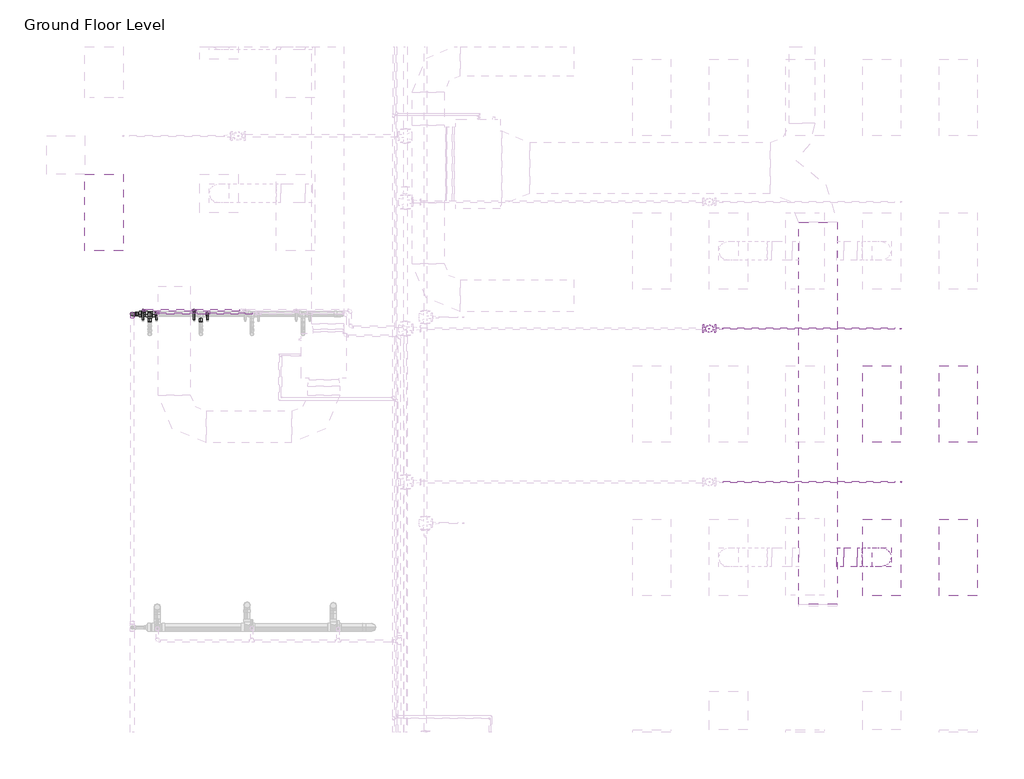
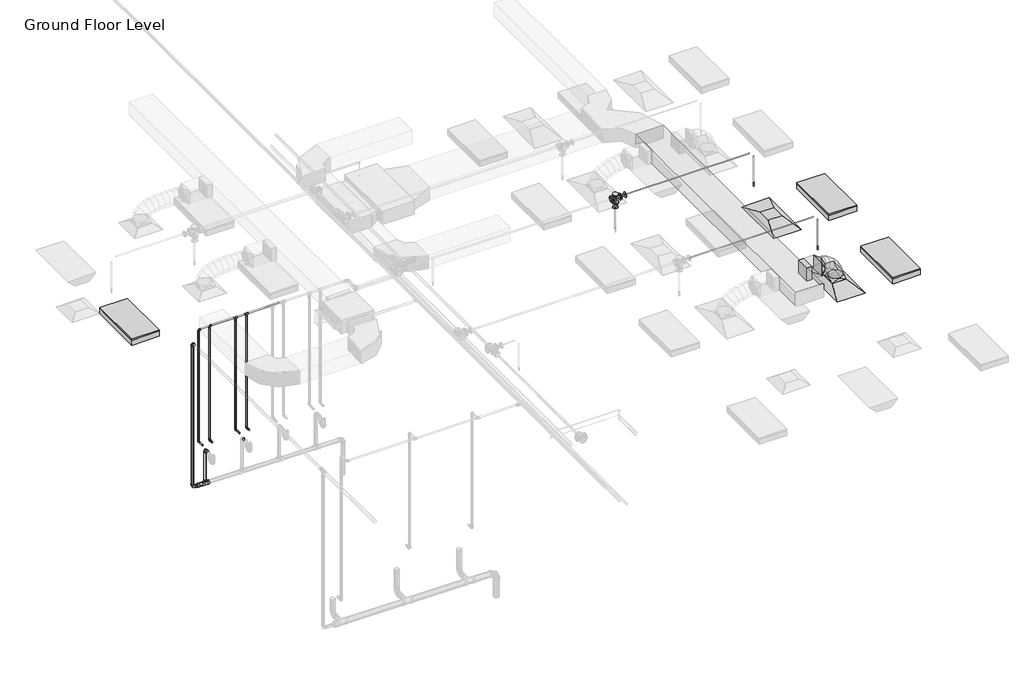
# One storey, part 23 of 74: 23 pipe segments, 16 pipe fittings, 3 duct fittings, 3 duct segments, 3 light fixtures, 2 air terminals, 2 fire suppression terminals.
"""IFC4 building model written with IfcOpenShell, lengths in millimetres."""

from ifc_helpers import new_model, si_unit, point, frame, frame_2d, origin, place, context, project, spatial, polyline, circle_curve, ellipse_curve, trimmed, segment, composite_curve, outline, extrude, transform, mapped, element, save
from ifc_brep_helpers import plane_surface, cylinder_surface, advanced_brep
from components import m_return_diffuser_1200x600_1200_x_600_face_300_x_300_d1983ef6, m_rectangular_takeoff_standard_cb0ccb98, m_rectangular_to_round_transition_angle_45_degree_641efff0, m_sprinkler_dry_pendent_hosted_15_mm_dry_pendent_9bda8e11, m_troffer_light_parabolic_rectangular1_0600x1200mm_4_lamp_86473d4a, m_bend_pvc_sch_40_dwv_standard_1e7bdcc1, m_bend_pvc_sch_40_dwv_standard_b3f66ba9, m_bend_pvc_sch_40_dwv_standard_8255d195, m_reducer_flanged_cs_class_150_standard_ccf252ad, m_reducer_pvc_sch_40_dwv_standard_391ccf0e, m_tee_reducing_sanitary_pvc_sch_40_dwv_standard_21d2848c, m_tee_round_base_flanged_cs_class_150_standard_7e5987a1, standard_b266ab3f, standard_636910a4

model = new_model("IFC4")

# Units and contexts
model_context = context("Model", 3, world=origin())
ifc_project = project(units=[si_unit("LENGTHUNIT", "METRE", prefix="MILLI")], contexts=[model_context])

# Site, building, storey
site = spatial("IfcSite", under=ifc_project)
building = spatial("IfcBuilding", under=site)
storey = spatial("IfcBuildingStorey", under=building, Name="Ground Floor Level", Elevation=900.0)

# Air terminals
placement = place(None, origin())
m_return_diffuser_1200x600_1200_x_600_face_300_x_300_shape = m_return_diffuser_1200x600_1200_x_600_face_300_x_300_d1983ef6(model_context)
element("IfcAirTerminal", 1, ObjectType="M_Return Diffuser 1200x600 : 1200 x 600 Face 300 x 300 Connection", at=placement, inside=storey, context=model_context, shape_type="MappedRepresentation", body=[
    mapped(m_return_diffuser_1200x600_1200_x_600_face_300_x_300_shape, transform((13143.0482736, -25264.7846466, 3650.0), x_axis=(0.0, 1.0, 0.0), y_axis=(-1.0, 0.0, 0.0), z_axis=(0.0, 0.0, 1.0))),
])
element("IfcAirTerminal", 2, ObjectType="M_Supply Diffuser 1200x600 : 1200 x 600 Face 300 x 300 Connection", at=placement, inside=storey, context=model_context, shape_type="MappedRepresentation", body=[
    mapped(m_return_diffuser_1200x600_1200_x_600_face_300_x_300_shape, transform((13143.0482736, -27664.7846466, 3650.0), x_axis=(0.0, 1.0, 0.0), y_axis=(-1.0, 0.0, 0.0), z_axis=(0.0, 0.0, 1.0))),
])

# Duct fittings
m_rectangular_takeoff_standard_shape = m_rectangular_takeoff_standard_cb0ccb98(model_context)
element("IfcDuctFitting", 3, ObjectType="M_Rectangular Takeoff : Standard", at=placement, inside=storey, context=model_context, shape_type="MappedRepresentation", body=[
    mapped(m_rectangular_takeoff_standard_shape, transform((12447.7826463, -27664.7846466, 4150.0), x_axis=(1.0, 0.0, 0.0), y_axis=(0.0, -1.0, 0.0), z_axis=(0.0, 0.0, -1.0))),
])
m_rectangular_to_round_transition_angle_45_degree_shape = m_rectangular_to_round_transition_angle_45_degree_641efff0(model_context)
element("IfcDuctFitting", 4, ObjectType="M_Rectangular to Round Transition - Angle : 45 Degree", at=placement, inside=storey, context=model_context, shape_type="MappedRepresentation", body=[
    mapped(m_rectangular_to_round_transition_angle_45_degree_shape, transform((13143.0482736, -27664.7846466, 3751.6), x_axis=(0.0, 0.0, 1.0), y_axis=(-1.0, 0.0, 0.0), z_axis=(0.0, -1.0, 0.0))),
])
element("IfcDuctFitting", 5, ObjectType="M_Rectangular to Round Transition - Angle : 45 Degree", at=placement, inside=storey, context=model_context, shape_type="MappedRepresentation", body=[
    mapped(m_rectangular_to_round_transition_angle_45_degree_shape, transform((12761.6123697, -27664.7846466, 4150.0), x_axis=(1.0, 0.0, 0.0), y_axis=(0.0, 1.0, 0.0), z_axis=(0.0, 0.0, 1.0))),
])

# Duct segments
element("IfcDuctSegment", 6, ObjectType="Flex - Round", at=placement, inside=storey, context=model_context, shape_type="AdvancedBrep", body=[
    advanced_brep(
    [(13293.0482736, -27664.7846466, 3826.6), (13143.0482736, -27814.7846466, 3826.6), (12993.0482736, -27664.7846466, 3826.6), (13143.0482736, -27514.7846466, 3826.6), (13293.0482736, -27664.7846466, 3876.0801767), (13143.0482736, -27814.7846466, 3855.2056793), (12993.0482736, -27664.7846466, 3834.331182), (13143.0482736, -27514.7846466, 3855.2056793), (13265.1827192, -27664.7846466, 3974.2594203), (13125.4356677, -27814.7846466, 3917.2605124), (12985.6886162, -27664.7846466, 3860.2616044), (13125.4356677, -27514.7846466, 3917.2605124), (13200.6413272, -27664.7846466, 4092.9659573), (13077.9530197, -27814.7846466, 4004.5920764), (12955.2647122, -27664.7846466, 3916.2181955), (13077.9530197, -27514.7846466, 4004.5920764), (13104.756489, -27664.7846466, 4195.7964668), (13008.6330843, -27814.7846466, 4078.9333843), (12912.5096796, -27664.7846466, 3962.0703018), (13008.6330843, -27514.7846466, 4078.9333843), (12990.1100986, -27664.7846466, 4267.0876603), (12925.5086161, -27814.7846466, 4130.6231281), (12860.9071335, -27664.7846466, 3994.1585959), (12925.5086161, -27514.7846466, 4130.6231281), (12893.3774283, -27664.7846466, 4300.0), (12868.5580444, -27814.7846466, 4150.0), (12843.7386605, -27664.7846466, 4000.0), (12868.5580444, -27514.7846466, 4150.0), (12836.6123697, -27664.7846466, 4300.0), (12836.6123697, -27814.7846466, 4150.0), (12836.6123697, -27664.7846466, 4000.0), (12836.6123697, -27514.7846466, 4150.0)],
    [
        (0, 1, circle_curve(frame((13143.0482736, -27664.7846466, 3826.6), z_axis=(0.0, 0.0, -1.0), x_axis=(1.0, 0.0, 0.0)), 150.0)),
        (1, 2, circle_curve(frame((13143.0482736, -27664.7846466, 3826.6), z_axis=(0.0, 0.0, -1.0), x_axis=(1.0, 0.0, 0.0)), 150.0)),
        (2, 3, circle_curve(frame((13143.0482736, -27664.7846466, 3826.6), z_axis=(0.0, 0.0, -1.0), x_axis=(1.0, 0.0, 0.0)), 150.0)),
        (3, 0, circle_curve(frame((13143.0482736, -27664.7846466, 3826.6), z_axis=(0.0, 0.0, -1.0), x_axis=(1.0, 0.0, 0.0)), 150.0)),
        (0, 4),
        (4, 5, ellipse_curve(frame((13143.0482736, -27664.7846466, 3855.2056793), z_axis=(0.13783502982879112, 0.0, -0.990455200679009), x_axis=(-0.990455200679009, 0.0, -0.1378350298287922)), 151.4455171, 150.0)),
        (5, 1),
        (5, 6, ellipse_curve(frame((13143.0482736, -27664.7846466, 3855.2056793), z_axis=(0.13783502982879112, 0.0, -0.990455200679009), x_axis=(-0.990455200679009, 0.0, -0.1378350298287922)), 151.4455171, 150.0)),
        (6, 2),
        (6, 7, ellipse_curve(frame((13143.0482736, -27664.7846466, 3855.2056793), z_axis=(0.13783502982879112, 0.0, -0.990455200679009), x_axis=(-0.990455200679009, 0.0, -0.1378350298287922)), 151.4455171, 150.0)),
        (7, 3),
        (7, 4, ellipse_curve(frame((13143.0482736, -27664.7846466, 3855.2056793), z_axis=(0.13783502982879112, 0.0, -0.990455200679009), x_axis=(-0.990455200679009, 0.0, -0.1378350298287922)), 151.4455171, 150.0)),
        (4, 8),
        (8, 9, ellipse_curve(frame((13125.4356677, -27664.7846466, 3917.2605124), z_axis=(0.37766579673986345, 0.0, -0.9259419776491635), x_axis=(-0.9259419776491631, 0.0, -0.3776657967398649)), 150.9241992, 150.0)),
        (9, 5),
        (9, 10, ellipse_curve(frame((13125.4356677, -27664.7846466, 3917.2605124), z_axis=(0.37766579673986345, 0.0, -0.9259419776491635), x_axis=(-0.9259419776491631, 0.0, -0.3776657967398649)), 150.9241992, 150.0)),
        (10, 6),
        (10, 11, ellipse_curve(frame((13125.4356677, -27664.7846466, 3917.2605124), z_axis=(0.37766579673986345, 0.0, -0.9259419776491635), x_axis=(-0.9259419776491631, 0.0, -0.3776657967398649)), 150.9241992, 150.0)),
        (11, 7),
        (11, 8, ellipse_curve(frame((13125.4356677, -27664.7846466, 3917.2605124), z_axis=(0.37766579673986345, 0.0, -0.9259419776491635), x_axis=(-0.9259419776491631, 0.0, -0.3776657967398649)), 150.9241992, 150.0)),
        (8, 12),
        (12, 13, ellipse_curve(frame((13077.9530197, -27664.7846466, 4004.5920764), z_axis=(0.584471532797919, 0.0, -0.8114142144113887), x_axis=(-0.8114142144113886, 0.0, -0.5844715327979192)), 151.2030542, 150.0)),
        (13, 9),
        (13, 14, ellipse_curve(frame((13077.9530197, -27664.7846466, 4004.5920764), z_axis=(0.584471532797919, 0.0, -0.8114142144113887), x_axis=(-0.8114142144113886, 0.0, -0.5844715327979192)), 151.2030542, 150.0)),
        (14, 10),
        (14, 15, ellipse_curve(frame((13077.9530197, -27664.7846466, 4004.5920764), z_axis=(0.584471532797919, 0.0, -0.8114142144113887), x_axis=(-0.8114142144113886, 0.0, -0.5844715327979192)), 151.2030542, 150.0)),
        (15, 11),
        (15, 12, ellipse_curve(frame((13077.9530197, -27664.7846466, 4004.5920764), z_axis=(0.584471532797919, 0.0, -0.8114142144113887), x_axis=(-0.8114142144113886, 0.0, -0.5844715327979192)), 151.2030542, 150.0)),
        (12, 16),
        (16, 17, ellipse_curve(frame((13008.6330843, -27664.7846466, 4078.9333843), z_axis=(0.7723088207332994, 0.0, -0.6352472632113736), x_axis=(-0.6352472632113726, 0.0, -0.7723088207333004)), 151.3165192, 150.0)),
        (17, 13),
        (17, 18, ellipse_curve(frame((13008.6330843, -27664.7846466, 4078.9333843), z_axis=(0.7723088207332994, 0.0, -0.6352472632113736), x_axis=(-0.6352472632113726, 0.0, -0.7723088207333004)), 151.3165192, 150.0)),
        (18, 14),
        (18, 19, ellipse_curve(frame((13008.6330843, -27664.7846466, 4078.9333843), z_axis=(0.7723088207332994, 0.0, -0.6352472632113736), x_axis=(-0.6352472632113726, 0.0, -0.7723088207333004)), 151.3165192, 150.0)),
        (19, 15),
        (19, 16, ellipse_curve(frame((13008.6330843, -27664.7846466, 4078.9333843), z_axis=(0.7723088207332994, 0.0, -0.6352472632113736), x_axis=(-0.6352472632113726, 0.0, -0.7723088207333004)), 151.3165192, 150.0)),
        (16, 20),
        (20, 21, ellipse_curve(frame((12925.5086161, -27664.7846466, 4130.6231281), z_axis=(0.9038393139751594, 0.0, -0.4278720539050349), x_axis=(-0.42787205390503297, 0.0, -0.9038393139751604)), 150.9831782, 150.0)),
        (21, 17),
        (21, 22, ellipse_curve(frame((12925.5086161, -27664.7846466, 4130.6231281), z_axis=(0.9038393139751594, 0.0, -0.4278720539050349), x_axis=(-0.42787205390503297, 0.0, -0.9038393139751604)), 150.9831782, 150.0)),
        (22, 18),
        (22, 23, ellipse_curve(frame((12925.5086161, -27664.7846466, 4130.6231281), z_axis=(0.9038393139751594, 0.0, -0.4278720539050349), x_axis=(-0.42787205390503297, 0.0, -0.9038393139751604)), 150.9831782, 150.0)),
        (23, 19),
        (23, 20, ellipse_curve(frame((12925.5086161, -27664.7846466, 4130.6231281), z_axis=(0.9038393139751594, 0.0, -0.4278720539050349), x_axis=(-0.42787205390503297, 0.0, -0.9038393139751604)), 150.9831782, 150.0)),
        (20, 24),
        (24, 25, ellipse_curve(frame((12868.5580444, -27664.7846466, 4150.0), z_axis=(0.9865858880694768, 0.0, -0.1632430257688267), x_axis=(-0.16324302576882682, 0.0, -0.9865858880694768)), 152.0394745, 150.0)),
        (25, 21),
        (25, 26, ellipse_curve(frame((12868.5580444, -27664.7846466, 4150.0), z_axis=(0.9865858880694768, 0.0, -0.1632430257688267), x_axis=(-0.16324302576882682, 0.0, -0.9865858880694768)), 152.0394745, 150.0)),
        (26, 22),
        (26, 27, ellipse_curve(frame((12868.5580444, -27664.7846466, 4150.0), z_axis=(0.9865858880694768, 0.0, -0.1632430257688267), x_axis=(-0.16324302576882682, 0.0, -0.9865858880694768)), 152.0394745, 150.0)),
        (27, 23),
        (27, 24, ellipse_curve(frame((12868.5580444, -27664.7846466, 4150.0), z_axis=(0.9865858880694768, 0.0, -0.1632430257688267), x_axis=(-0.16324302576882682, 0.0, -0.9865858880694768)), 152.0394745, 150.0)),
        (24, 28),
        (28, 29, circle_curve(frame((12836.6123697, -27664.7846466, 4150.0), z_axis=(1.0, 0.0, 0.0), x_axis=(0.0, 0.0, 1.0)), 150.0)),
        (29, 25),
        (29, 30, circle_curve(frame((12836.6123697, -27664.7846466, 4150.0), z_axis=(1.0, 0.0, 0.0), x_axis=(0.0, 0.0, 1.0)), 150.0)),
        (30, 26),
        (30, 31, circle_curve(frame((12836.6123697, -27664.7846466, 4150.0), z_axis=(1.0, 0.0, 0.0), x_axis=(0.0, 0.0, 1.0)), 150.0)),
        (31, 27),
        (31, 28, circle_curve(frame((12836.6123697, -27664.7846466, 4150.0), z_axis=(1.0, 0.0, 0.0), x_axis=(0.0, 0.0, 1.0)), 150.0)),
    ],
    [
        plane_surface(frame((13143.0482736, -27814.7846466, 3826.6), z_axis=(0.0, 0.0, -1.0), x_axis=(1.0, 0.0, 0.0))),
        cylinder_surface(frame((13143.0482736, -27664.7846466, 3826.6), z_axis=(0.0, 0.0, -1.0), x_axis=(1.0, 0.0, 0.0)), 150.0),
        cylinder_surface(frame((13143.0482736, -27664.7846466, 3855.2056793), z_axis=(0.27303884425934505, 0.0, -0.9620030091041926), x_axis=(0.9620030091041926, 0.0, 0.27303884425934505)), 150.0),
        cylinder_surface(frame((13125.4356677, -27664.7846466, 3917.2605124), z_axis=(0.4776674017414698, 0.0, -0.8785407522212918), x_axis=(0.8785407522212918, 0.0, 0.4776674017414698)), 150.0),
        cylinder_surface(frame((13077.9530197, -27664.7846466, 4004.5920764), z_axis=(0.6819749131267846, 0.0, -0.7313755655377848), x_axis=(0.7313755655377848, 0.0, 0.6819749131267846)), 150.0),
        cylinder_surface(frame((13008.6330843, -27664.7846466, 4078.9333843), z_axis=(0.8492038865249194, 0.0, -0.5280651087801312), x_axis=(0.5280651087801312, 0.0, 0.8492038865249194)), 150.0),
        cylinder_surface(frame((12925.5086161, -27664.7846466, 4130.6231281), z_axis=(0.9467034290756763, 0.0, -0.32210653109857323), x_axis=(0.32210653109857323, 0.0, 0.9467034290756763)), 150.0),
        cylinder_surface(frame((12868.5580444, -27664.7846466, 4150.0), z_axis=(1.0, 0.0, 0.0), x_axis=(0.0, 0.0, 1.0)), 150.0),
        plane_surface(frame((12836.6123697, -27664.7846466, 4000.0), z_axis=(-1.0, 0.0, 0.0), x_axis=(0.0, -1.0, 0.0))),
    ],
    [
        (0, [[1, 2, 3, 4]]),
        (1, [[-1, 5, 6, 7]]),
        (1, [[-2, -7, 8, 9]]),
        (1, [[-3, -9, 10, 11]]),
        (1, [[-4, -11, 12, -5]]),
        (2, [[-6, 13, 14, 15]]),
        (2, [[-8, -15, 16, 17]]),
        (2, [[-10, -17, 18, 19]]),
        (2, [[-12, -19, 20, -13]]),
        (3, [[-14, 21, 22, 23]]),
        (3, [[-16, -23, 24, 25]]),
        (3, [[-18, -25, 26, 27]]),
        (3, [[-20, -27, 28, -21]]),
        (4, [[-22, 29, 30, 31]]),
        (4, [[-24, -31, 32, 33]]),
        (4, [[-26, -33, 34, 35]]),
        (4, [[-28, -35, 36, -29]]),
        (5, [[-30, 37, 38, 39]]),
        (5, [[-32, -39, 40, 41]]),
        (5, [[-34, -41, 42, 43]]),
        (5, [[-36, -43, 44, -37]]),
        (6, [[-38, 45, 46, 47]]),
        (6, [[-40, -47, 48, 49]]),
        (6, [[-42, -49, 50, 51]]),
        (6, [[-44, -51, 52, -45]]),
        (7, [[-46, 53, 54, 55]]),
        (7, [[-48, -55, 56, 57]]),
        (7, [[-50, -57, 58, 59]]),
        (7, [[-52, -59, 60, -53]]),
        (8, [[-60, -58, -56, -54]]),
    ],
),
])
element("IfcDuctSegment", 7, ObjectType="Radius Elbows / Taps", at=placement, inside=storey, context=model_context, shape_type="SweptSolid", body=[
    extrude(outline(polyline([(12447.7826463, -28403.2846466), (11847.7826463, -28403.2846466), (11847.7826463, -22416.5689179), (12447.7826463, -22416.5689179), (12447.7826463, -28403.2846466)])), frame((0.0, 0.0, 4000.0002153), z_axis=(0.0, 0.0, 1.0), x_axis=(1.0, 0.0, 0.0)), (0.0, 0.0, 1.0), 300.0),
])
element("IfcDuctSegment", 8, ObjectType="Radius Elbows / Taps", at=placement, inside=storey, context=model_context, shape_type="SweptSolid", body=[
    extrude(outline(polyline([(12549.3826463, -27814.7846466), (12549.3826463, -27514.7846466), (12761.6123697, -27514.7846466), (12761.6123697, -27814.7846466), (12549.3826463, -27814.7846466)])), frame((0.0, 0.0, 4000.0), z_axis=(0.0, 0.0, 1.0), x_axis=(1.0, 0.0, 0.0)), (0.0, 0.0, 1.0), 300.0),
])

# Fire suppression terminals
m_sprinkler_dry_pendent_hosted_15_mm_dry_pendent_shape = m_sprinkler_dry_pendent_hosted_15_mm_dry_pendent_9bda8e11(model_context)
element("IfcFireSuppressionTerminal", 9, ObjectType="M_Sprinkler - Dry - Pendent - Hosted : 15 mm Dry Pendent", at=placement, inside=storey, context=model_context, shape_type="MappedRepresentation", body=[
    mapped(m_sprinkler_dry_pendent_hosted_15_mm_dry_pendent_shape, transform((13443.0482736, -24083.6779349, 3650.0), x_axis=(1.0, 0.0, 0.0), y_axis=(0.0, -1.0, 0.0), z_axis=(0.0, 0.0, -1.0))),
])
element("IfcFireSuppressionTerminal", 10, ObjectType="M_Sprinkler - Dry - Pendent - Hosted : 15 mm Dry Pendent", at=placement, inside=storey, context=model_context, shape_type="MappedRepresentation", body=[
    mapped(m_sprinkler_dry_pendent_hosted_15_mm_dry_pendent_shape, transform((13443.0482736, -26484.6295433, 3650.0), x_axis=(1.0, 0.0, 0.0), y_axis=(0.0, -1.0, 0.0), z_axis=(0.0, 0.0, -1.0))),
])

# Light fixtures
m_troffer_light_parabolic_rectangular1_0600x1200mm_4_lamp_shape = m_troffer_light_parabolic_rectangular1_0600x1200mm_4_lamp_86473d4a(model_context)
element("IfcLightFixture", 11, ObjectType="M_Troffer Light - Parabolic Rectangular1 : 0600x1200mm(4 Lamp) - 277V 2", at=placement, inside=storey, context=model_context, shape_type="MappedRepresentation", body=[
    mapped(m_troffer_light_parabolic_rectangular1_0600x1200mm_4_lamp_shape, transform((903.3013074, -22246.081145, 3650.0), x_axis=(0.0, 1.0, 0.0), y_axis=(-1.0, 0.0, 0.0), z_axis=(0.0, 0.0, 1.0))),
])
element("IfcLightFixture", 12, ObjectType="M_Troffer Light - Parabolic Rectangular1 : 0600x1200mm(4 Lamp) - 277V 2", at=placement, inside=storey, context=model_context, shape_type="MappedRepresentation", body=[
    mapped(m_troffer_light_parabolic_rectangular1_0600x1200mm_4_lamp_shape, transform((14283.5823415, -25246.081145, 3650.0), x_axis=(0.0, 1.0, 0.0), y_axis=(-1.0, 0.0, 0.0), z_axis=(0.0, 0.0, 1.0))),
])
element("IfcLightFixture", 13, ObjectType="M_Troffer Light - Parabolic Rectangular1 : 0600x1200mm(4 Lamp) - 277V 2", at=placement, inside=storey, context=model_context, shape_type="MappedRepresentation", body=[
    mapped(m_troffer_light_parabolic_rectangular1_0600x1200mm_4_lamp_shape, transform((14283.5823415, -27646.081145, 3650.0), x_axis=(0.0, 1.0, 0.0), y_axis=(-1.0, 0.0, 0.0), z_axis=(0.0, 0.0, 1.0))),
])

# Pipe fittings
m_bend_pvc_sch_40_dwv_standard_shape = m_bend_pvc_sch_40_dwv_standard_1e7bdcc1(model_context)
element("IfcPipeFitting", 14, ObjectType="M_Bend - PVC - Sch 40 - DWV : Standard", at=placement, inside=storey, context=model_context, shape_type="MappedRepresentation", body=[
    mapped(m_bend_pvc_sch_40_dwv_standard_shape, transform((1404.8669708, -23854.2948449, 739.8083289), x_axis=(-0.9999500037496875, 0.0, 0.009999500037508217), y_axis=(0.009999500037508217, 0.0, 0.9999500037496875), z_axis=(0.0, 1.0, 0.0))),
])
m_bend_pvc_sch_40_dwv_standard_2_shape = m_bend_pvc_sch_40_dwv_standard_b3f66ba9(model_context)
element("IfcPipeFitting", 15, ObjectType="M_Bend - PVC - Sch 40 - DWV : Standard", at=placement, inside=storey, context=model_context, shape_type="MappedRepresentation", body=[
    mapped(m_bend_pvc_sch_40_dwv_standard_2_shape, transform((1679.14976, -23854.2948449, 1508.2594199), x_axis=(0.0, 0.9999578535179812, -0.009181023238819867), y_axis=(0.0, -0.009181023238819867, -0.9999578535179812), z_axis=(-1.0, 0.0, 0.0))),
])
m_bend_pvc_sch_40_dwv_standard_3_shape = m_bend_pvc_sch_40_dwv_standard_8255d195(model_context)
element("IfcPipeFitting", 16, ObjectType="M_Bend - PVC - Sch 40 - DWV : Standard", at=placement, inside=storey, context=model_context, shape_type="MappedRepresentation", body=[
    mapped(m_bend_pvc_sch_40_dwv_standard_3_shape, transform((1404.8829692, -23854.3136394, 4037.9287036), x_axis=(0.0, 0.0, 1.0), y_axis=(0.0, -1.0, 0.0), z_axis=(1.0, 0.0, 0.0))),
])
m_reducer_flanged_cs_class_150_standard_shape = m_reducer_flanged_cs_class_150_standard_ccf252ad(model_context)
element("IfcPipeFitting", 17, ObjectType="M_Reducer - Flanged - CS - Class 150 : Standard", at=placement, inside=storey, context=model_context, shape_type="MappedRepresentation", body=[
    mapped(m_reducer_flanged_cs_class_150_standard_shape, transform((10543.7568674, -24083.6779349, 4347.5), x_axis=(1.0, 0.0, 0.0), y_axis=(0.0, 0.0, 1.0), z_axis=(0.0, -1.0, 0.0))),
])
element("IfcPipeFitting", 18, ObjectType="M_Reducer - Flanged - CS - Class 150 : Standard", at=placement, inside=storey, context=model_context, shape_type="MappedRepresentation", body=[
    mapped(m_reducer_flanged_cs_class_150_standard_shape, transform((10443.0482736, -24083.6779349, 4246.7914063), x_axis=(0.0, 0.0, -1.0), y_axis=(-1.0, 0.0, 0.0), z_axis=(0.0, 1.0, 0.0))),
])
m_reducer_pvc_sch_40_dwv_standard_shape = m_reducer_pvc_sch_40_dwv_standard_391ccf0e(model_context)
element("IfcPipeFitting", 19, ObjectType="M_Reducer - PVC - Sch 40 - DWV : Standard", at=placement, inside=storey, context=model_context, shape_type="MappedRepresentation", body=[
    mapped(m_reducer_pvc_sch_40_dwv_standard_shape, transform((1477.4242491, -23854.2948449, 739.0827561), x_axis=(0.9999500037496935, 0.0, -0.00999950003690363), y_axis=(0.0, 1.0, 0.0), z_axis=(0.00999950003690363, 0.0, 0.9999500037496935))),
])
m_tee_reducing_sanitary_pvc_sch_40_dwv_standard_shape = m_tee_reducing_sanitary_pvc_sch_40_dwv_standard_21d2848c(model_context)
element("IfcPipeFitting", 20, ObjectType="M_Tee Reducing Sanitary - PVC - Sch 40 - DWV : Standard", at=placement, inside=storey, context=model_context, shape_type="MappedRepresentation", body=[
    mapped(m_tee_reducing_sanitary_pvc_sch_40_dwv_standard_shape, transform((1679.3782372, -23854.2948449, 737.0632162), x_axis=(-0.9999500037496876, 0.0, 0.009999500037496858), y_axis=(-0.009999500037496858, 0.0, -0.9999500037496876), z_axis=(0.0, -1.0, 0.0))),
])
m_tee_round_base_flanged_cs_class_150_standard_shape = m_tee_round_base_flanged_cs_class_150_standard_7e5987a1(model_context)
element("IfcPipeFitting", 21, ObjectType="M_Tee Round Base - Flanged - CS - Class 150 : Standard", at=placement, inside=storey, context=model_context, shape_type="MappedRepresentation", body=[
    mapped(m_tee_round_base_flanged_cs_class_150_standard_shape, transform((10443.0482736, -24083.6779349, 4347.5), x_axis=(1.0, 0.0, 0.0), y_axis=(0.0, 0.0, 1.0), z_axis=(0.0, -1.0, 0.0))),
])
standard_shape = standard_b266ab3f(model_context)
element("IfcPipeFitting", 22, ObjectType="M_Elbow - CPVC - Sch 40 : Standard", at=placement, inside=storey, context=model_context, shape_type="MappedRepresentation", body=[
    mapped(standard_shape, transform((1783.0647206, -23844.7846466, 1690.0), x_axis=(0.0, 0.0, -1.0), y_axis=(0.0, -1.0, 0.0), z_axis=(-1.0, 0.0, 0.0))),
])
element("IfcPipeFitting", 23, ObjectType="M_Elbow - CPVC - Sch 40 : Standard", at=placement, inside=storey, context=model_context, shape_type="MappedRepresentation", body=[
    mapped(standard_shape, transform((2583.0647206, -23844.7846466, 1690.0), x_axis=(0.0, 0.0, -1.0), y_axis=(0.0, -1.0, 0.0), z_axis=(-1.0, 0.0, 0.0))),
])
element("IfcPipeFitting", 24, ObjectType="M_Elbow - CPVC - Sch 40 : Standard", at=placement, inside=storey, context=model_context, shape_type="MappedRepresentation", body=[
    mapped(standard_shape, transform((1783.0647206, -23844.7846466, 4300.0), x_axis=(-1.0, 0.0, 0.0), y_axis=(0.0, 0.0, -1.0), z_axis=(0.0, -1.0, 0.0))),
])
element("IfcPipeFitting", 25, ObjectType="M_Elbow - CPVC - Sch 40 : Standard", at=placement, inside=storey, context=model_context, shape_type="MappedRepresentation", body=[
    mapped(standard_shape, transform((1574.4348794, -23794.921633, 1690.0), x_axis=(0.0, 1.0, 0.0), y_axis=(0.0, 0.0, 1.0), z_axis=(1.0, 0.0, 0.0))),
])
element("IfcPipeFitting", 26, ObjectType="M_Elbow - CPVC - Sch 40 : Standard", at=placement, inside=storey, context=model_context, shape_type="MappedRepresentation", body=[
    mapped(standard_shape, transform((1574.4348794, -23794.921633, 4250.0), x_axis=(0.0, 0.0, 1.0), y_axis=(1.0, 0.0, 0.0), z_axis=(0.0, 1.0, 0.0))),
])
element("IfcPipeFitting", 27, ObjectType="M_Elbow - CPVC - Sch 40 : Standard", at=placement, inside=storey, context=model_context, shape_type="MappedRepresentation", body=[
    mapped(standard_shape, transform((2374.4348794, -23794.921633, 1690.0), x_axis=(0.0, 1.0, 0.0), y_axis=(0.0, 0.0, 1.0), z_axis=(1.0, 0.0, 0.0))),
])
standard_2_shape = standard_636910a4(model_context)
element("IfcPipeFitting", 28, ObjectType="M_Tee - CPVC - Sch 40 : Standard", at=placement, inside=storey, context=model_context, shape_type="MappedRepresentation", body=[
    mapped(standard_2_shape, transform((2583.0647206, -23844.7846466, 4300.0), x_axis=(1.0, 0.0, 0.0), y_axis=(0.0, 0.0, 1.0), z_axis=(0.0, -1.0, 0.0))),
])
element("IfcPipeFitting", 29, ObjectType="M_Tee - CPVC - Sch 40 : Standard", at=placement, inside=storey, context=model_context, shape_type="MappedRepresentation", body=[
    mapped(standard_2_shape, transform((2374.4348794, -23794.921633, 4250.0), x_axis=(-1.0, 0.0, 0.0), y_axis=(0.0, 0.0, 1.0), z_axis=(0.0, 1.0, 0.0))),
])

# Pipe segments
element("IfcPipeSegment", 30, ObjectType="CPVC", at=placement, inside=storey, context=model_context, shape_type="SweptSolid", body=[
    extrude(outline(composite_curve([segment(trimmed(circle_curve(frame_2d((1690.0, 2583.0647206)), 13.335), [point((1690.0, 2596.3997206))], [point((1703.335, 2583.0647206))], False, "CARTESIAN"), True, "CONTINUOUS"), segment(trimmed(circle_curve(frame_2d((1690.0, 2583.0647206)), 13.335), [point((1703.335, 2583.0647206))], [point((1690.0, 2569.7297206))], False, "CARTESIAN"), True, "CONTINUOUS"), segment(trimmed(circle_curve(frame_2d((1690.0, 2583.0647206)), 13.335), [point((1690.0, 2569.7297206))], [point((1676.665, 2583.0647206))], False, "CARTESIAN"), True, "CONTINUOUS"), segment(trimmed(circle_curve(frame_2d((1690.0, 2583.0647206)), 13.335), [point((1676.665, 2583.0647206))], [point((1690.0, 2596.3997206))], False, "CARTESIAN"), True, "CONTINUOUS")], self_intersect=False)), frame((0.0, -23944.7846466, 0.0), z_axis=(0.0, 1.0, 0.0), x_axis=(0.0, 0.0, 1.0)), (0.0, 0.0, 1.0), 64.67495),
])
element("IfcPipeSegment", 31, ObjectType="CPVC", at=placement, inside=storey, context=model_context, shape_type="SweptSolid", body=[
    extrude(outline(composite_curve([segment(trimmed(circle_curve(frame_2d((1690.0, 1783.0647206)), 13.335), [point((1690.0, 1796.3997206))], [point((1703.335, 1783.0647206))], False, "CARTESIAN"), True, "CONTINUOUS"), segment(trimmed(circle_curve(frame_2d((1690.0, 1783.0647206)), 13.335), [point((1703.335, 1783.0647206))], [point((1690.0, 1769.7297206))], False, "CARTESIAN"), True, "CONTINUOUS"), segment(trimmed(circle_curve(frame_2d((1690.0, 1783.0647206)), 13.335), [point((1690.0, 1769.7297206))], [point((1676.665, 1783.0647206))], False, "CARTESIAN"), True, "CONTINUOUS"), segment(trimmed(circle_curve(frame_2d((1690.0, 1783.0647206)), 13.335), [point((1676.665, 1783.0647206))], [point((1690.0, 1796.3997206))], False, "CARTESIAN"), True, "CONTINUOUS")], self_intersect=False)), frame((0.0, -23944.7846466, 0.0), z_axis=(0.0, 1.0, 0.0), x_axis=(0.0, 0.0, 1.0)), (0.0, 0.0, 1.0), 64.67495),
])
element("IfcPipeSegment", 32, ObjectType="CPVC", at=placement, inside=storey, context=model_context, shape_type="SweptSolid", body=[
    extrude(outline(composite_curve([segment(trimmed(circle_curve(frame_2d((1783.0647206, -23844.7846466)), 13.335), [point((1796.3997206, -23844.7846466))], [point((1783.0647206, -23858.1196466))], False, "CARTESIAN"), True, "CONTINUOUS"), segment(trimmed(circle_curve(frame_2d((1783.0647206, -23844.7846466)), 13.335), [point((1783.0647206, -23858.1196466))], [point((1769.7297206, -23844.7846466))], False, "CARTESIAN"), True, "CONTINUOUS"), segment(trimmed(circle_curve(frame_2d((1783.0647206, -23844.7846466)), 13.335), [point((1769.7297206, -23844.7846466))], [point((1783.0647206, -23831.4496466))], False, "CARTESIAN"), True, "CONTINUOUS"), segment(trimmed(circle_curve(frame_2d((1783.0647206, -23844.7846466)), 13.335), [point((1783.0647206, -23831.4496466))], [point((1796.3997206, -23844.7846466))], False, "CARTESIAN"), True, "CONTINUOUS")], self_intersect=False)), frame((0.0, 0.0, 1725.32505), z_axis=(0.0, 0.0, 1.0), x_axis=(1.0, 0.0, 0.0)), (0.0, 0.0, 1.0), 2539.3499),
])
element("IfcPipeSegment", 33, ObjectType="CPVC", at=placement, inside=storey, context=model_context, shape_type="SweptSolid", body=[
    extrude(outline(composite_curve([segment(trimmed(circle_curve(frame_2d((-23844.7846466, 4300.0)), 13.335), [point((-23831.4496466, 4300.0))], [point((-23844.7846466, 4286.665))], False, "CARTESIAN"), True, "CONTINUOUS"), segment(trimmed(circle_curve(frame_2d((-23844.7846466, 4300.0)), 13.335), [point((-23844.7846466, 4286.665))], [point((-23858.1196466, 4300.0))], False, "CARTESIAN"), True, "CONTINUOUS"), segment(trimmed(circle_curve(frame_2d((-23844.7846466, 4300.0)), 13.335), [point((-23858.1196466, 4300.0))], [point((-23844.7846466, 4313.335))], False, "CARTESIAN"), True, "CONTINUOUS"), segment(trimmed(circle_curve(frame_2d((-23844.7846466, 4300.0)), 13.335), [point((-23844.7846466, 4313.335))], [point((-23831.4496466, 4300.0))], False, "CARTESIAN"), True, "CONTINUOUS")], self_intersect=False)), frame((1818.3897706, 0.0, 0.0), z_axis=(1.0, 0.0, 0.0), x_axis=(0.0, 1.0, 0.0)), (0.0, 0.0, 1.0), 732.13755),
])
element("IfcPipeSegment", 34, ObjectType="CPVC", at=placement, inside=storey, context=model_context, shape_type="SweptSolid", body=[
    extrude(outline(composite_curve([segment(trimmed(circle_curve(frame_2d((2583.0647206, -23844.7846466)), 13.335), [point((2596.3997206, -23844.7846466))], [point((2583.0647206, -23858.1196466))], False, "CARTESIAN"), True, "CONTINUOUS"), segment(trimmed(circle_curve(frame_2d((2583.0647206, -23844.7846466)), 13.335), [point((2583.0647206, -23858.1196466))], [point((2569.7297206, -23844.7846466))], False, "CARTESIAN"), True, "CONTINUOUS"), segment(trimmed(circle_curve(frame_2d((2583.0647206, -23844.7846466)), 13.335), [point((2569.7297206, -23844.7846466))], [point((2583.0647206, -23831.4496466))], False, "CARTESIAN"), True, "CONTINUOUS"), segment(trimmed(circle_curve(frame_2d((2583.0647206, -23844.7846466)), 13.335), [point((2583.0647206, -23831.4496466))], [point((2596.3997206, -23844.7846466))], False, "CARTESIAN"), True, "CONTINUOUS")], self_intersect=False)), frame((0.0, 0.0, 1725.32505), z_axis=(0.0, 0.0, 1.0), x_axis=(1.0, 0.0, 0.0)), (0.0, 0.0, 1.0), 2542.13755),
])
element("IfcPipeSegment", 35, ObjectType="CPVC", at=placement, inside=storey, context=model_context, shape_type="SweptSolid", body=[
    extrude(outline(composite_curve([segment(trimmed(circle_curve(frame_2d((-23844.7846466, 4300.0)), 13.335), [point((-23831.4496466, 4300.0))], [point((-23844.7846466, 4286.665))], False, "CARTESIAN"), True, "CONTINUOUS"), segment(trimmed(circle_curve(frame_2d((-23844.7846466, 4300.0)), 13.335), [point((-23844.7846466, 4286.665))], [point((-23858.1196466, 4300.0))], False, "CARTESIAN"), True, "CONTINUOUS"), segment(trimmed(circle_curve(frame_2d((-23844.7846466, 4300.0)), 13.335), [point((-23858.1196466, 4300.0))], [point((-23844.7846466, 4313.335))], False, "CARTESIAN"), True, "CONTINUOUS"), segment(trimmed(circle_curve(frame_2d((-23844.7846466, 4300.0)), 13.335), [point((-23844.7846466, 4313.335))], [point((-23831.4496466, 4300.0))], False, "CARTESIAN"), True, "CONTINUOUS")], self_intersect=False)), frame((2615.6021206, 0.0, 0.0), z_axis=(1.0, 0.0, 0.0), x_axis=(0.0, 1.0, 0.0)), (0.0, 0.0, 1.0), 670.6124),
])
element("IfcPipeSegment", 36, ObjectType="CPVC", at=placement, inside=storey, context=model_context, shape_type="SweptSolid", body=[
    extrude(outline(composite_curve([segment(trimmed(circle_curve(frame_2d((1690.0, 1574.4348794)), 13.335), [point((1690.0, 1587.7698794))], [point((1703.335, 1574.4348794))], False, "CARTESIAN"), True, "CONTINUOUS"), segment(trimmed(circle_curve(frame_2d((1690.0, 1574.4348794)), 13.335), [point((1703.335, 1574.4348794))], [point((1690.0, 1561.0998794))], False, "CARTESIAN"), True, "CONTINUOUS"), segment(trimmed(circle_curve(frame_2d((1690.0, 1574.4348794)), 13.335), [point((1690.0, 1561.0998794))], [point((1676.665, 1574.4348794))], False, "CARTESIAN"), True, "CONTINUOUS"), segment(trimmed(circle_curve(frame_2d((1690.0, 1574.4348794)), 13.335), [point((1676.665, 1574.4348794))], [point((1690.0, 1587.7698794))], False, "CARTESIAN"), True, "CONTINUOUS")], self_intersect=False)), frame((0.0, -23944.7846466, 0.0), z_axis=(0.0, 1.0, 0.0), x_axis=(0.0, 0.0, 1.0)), (0.0, 0.0, 1.0), 114.5379636),
])
element("IfcPipeSegment", 37, ObjectType="CPVC", at=placement, inside=storey, context=model_context, shape_type="SweptSolid", body=[
    extrude(outline(composite_curve([segment(trimmed(circle_curve(frame_2d((1574.4348794, -23794.921633)), 13.335), [point((1561.0998794, -23794.921633))], [point((1574.4348794, -23781.586633))], False, "CARTESIAN"), True, "CONTINUOUS"), segment(trimmed(circle_curve(frame_2d((1574.4348794, -23794.921633)), 13.335), [point((1574.4348794, -23781.586633))], [point((1587.7698794, -23794.921633))], False, "CARTESIAN"), True, "CONTINUOUS"), segment(trimmed(circle_curve(frame_2d((1574.4348794, -23794.921633)), 13.335), [point((1587.7698794, -23794.921633))], [point((1574.4348794, -23808.256633))], False, "CARTESIAN"), True, "CONTINUOUS"), segment(trimmed(circle_curve(frame_2d((1574.4348794, -23794.921633)), 13.335), [point((1574.4348794, -23808.256633))], [point((1561.0998794, -23794.921633))], False, "CARTESIAN"), True, "CONTINUOUS")], self_intersect=False)), frame((0.0, 0.0, 1725.32505), z_axis=(0.0, 0.0, 1.0), x_axis=(1.0, 0.0, 0.0)), (0.0, 0.0, 1.0), 2489.3499),
])
element("IfcPipeSegment", 38, ObjectType="CPVC", at=placement, inside=storey, context=model_context, shape_type="SweptSolid", body=[
    extrude(outline(composite_curve([segment(trimmed(circle_curve(frame_2d((1690.0, 2374.4348794)), 13.335), [point((1690.0, 2387.7698794))], [point((1703.335, 2374.4348794))], False, "CARTESIAN"), True, "CONTINUOUS"), segment(trimmed(circle_curve(frame_2d((1690.0, 2374.4348794)), 13.335), [point((1703.335, 2374.4348794))], [point((1690.0, 2361.0998794))], False, "CARTESIAN"), True, "CONTINUOUS"), segment(trimmed(circle_curve(frame_2d((1690.0, 2374.4348794)), 13.335), [point((1690.0, 2361.0998794))], [point((1676.665, 2374.4348794))], False, "CARTESIAN"), True, "CONTINUOUS"), segment(trimmed(circle_curve(frame_2d((1690.0, 2374.4348794)), 13.335), [point((1676.665, 2374.4348794))], [point((1690.0, 2387.7698794))], False, "CARTESIAN"), True, "CONTINUOUS")], self_intersect=False)), frame((0.0, -23944.7846466, 0.0), z_axis=(0.0, 1.0, 0.0), x_axis=(0.0, 0.0, 1.0)), (0.0, 0.0, 1.0), 114.5379636),
])
element("IfcPipeSegment", 39, ObjectType="CPVC", at=placement, inside=storey, context=model_context, shape_type="SweptSolid", body=[
    extrude(outline(composite_curve([segment(trimmed(circle_curve(frame_2d((2374.4348794, -23794.921633)), 13.335), [point((2361.0998794, -23794.921633))], [point((2374.4348794, -23781.586633))], False, "CARTESIAN"), True, "CONTINUOUS"), segment(trimmed(circle_curve(frame_2d((2374.4348794, -23794.921633)), 13.335), [point((2374.4348794, -23781.586633))], [point((2387.7698794, -23794.921633))], False, "CARTESIAN"), True, "CONTINUOUS"), segment(trimmed(circle_curve(frame_2d((2374.4348794, -23794.921633)), 13.335), [point((2387.7698794, -23794.921633))], [point((2374.4348794, -23808.256633))], False, "CARTESIAN"), True, "CONTINUOUS"), segment(trimmed(circle_curve(frame_2d((2374.4348794, -23794.921633)), 13.335), [point((2374.4348794, -23808.256633))], [point((2361.0998794, -23794.921633))], False, "CARTESIAN"), True, "CONTINUOUS")], self_intersect=False)), frame((0.0, 0.0, 1725.32505), z_axis=(0.0, 0.0, 1.0), x_axis=(1.0, 0.0, 0.0)), (0.0, 0.0, 1.0), 2492.13755),
])
element("IfcPipeSegment", 40, ObjectType="CPVC", at=placement, inside=storey, context=model_context, shape_type="SweptSolid", body=[
    extrude(outline(composite_curve([segment(trimmed(circle_curve(frame_2d((-23794.921633, 4250.0)), 13.335), [point((-23808.256633, 4250.0))], [point((-23794.921633, 4263.335))], False, "CARTESIAN"), True, "CONTINUOUS"), segment(trimmed(circle_curve(frame_2d((-23794.921633, 4250.0)), 13.335), [point((-23794.921633, 4263.335))], [point((-23781.586633, 4250.0))], False, "CARTESIAN"), True, "CONTINUOUS"), segment(trimmed(circle_curve(frame_2d((-23794.921633, 4250.0)), 13.335), [point((-23781.586633, 4250.0))], [point((-23794.921633, 4236.665))], False, "CARTESIAN"), True, "CONTINUOUS"), segment(trimmed(circle_curve(frame_2d((-23794.921633, 4250.0)), 13.335), [point((-23794.921633, 4236.665))], [point((-23808.256633, 4250.0))], False, "CARTESIAN"), True, "CONTINUOUS")], self_intersect=False)), frame((1609.7599294, 0.0, 0.0), z_axis=(1.0, 0.0, 0.0), x_axis=(0.0, 1.0, 0.0)), (0.0, 0.0, 1.0), 732.13755),
])
element("IfcPipeSegment", 41, ObjectType="CPVC", at=placement, inside=storey, context=model_context, shape_type="SweptSolid", body=[
    extrude(outline(composite_curve([segment(trimmed(circle_curve(frame_2d((-23794.921633, 4250.0)), 13.335), [point((-23808.256633, 4250.0))], [point((-23794.921633, 4263.335))], False, "CARTESIAN"), True, "CONTINUOUS"), segment(trimmed(circle_curve(frame_2d((-23794.921633, 4250.0)), 13.335), [point((-23794.921633, 4263.335))], [point((-23781.586633, 4250.0))], False, "CARTESIAN"), True, "CONTINUOUS"), segment(trimmed(circle_curve(frame_2d((-23794.921633, 4250.0)), 13.335), [point((-23781.586633, 4250.0))], [point((-23794.921633, 4236.665))], False, "CARTESIAN"), True, "CONTINUOUS"), segment(trimmed(circle_curve(frame_2d((-23794.921633, 4250.0)), 13.335), [point((-23794.921633, 4236.665))], [point((-23808.256633, 4250.0))], False, "CARTESIAN"), True, "CONTINUOUS")], self_intersect=False)), frame((2406.9722794, 0.0, 0.0), z_axis=(1.0, 0.0, 0.0), x_axis=(0.0, 1.0, 0.0)), (0.0, 0.0, 1.0), 670.6124),
])
element("IfcPipeSegment", 42, ObjectType="PVC - DWV", at=placement, inside=storey, context=model_context, shape_type="SweptSolid", body=[
    extrude(outline(composite_curve([segment(trimmed(circle_curve(frame_2d((0.0, -24.13)), 24.13), [point((24.13, -24.13))], [point((0.0, -48.26))], False, "CARTESIAN"), True, "CONTINUOUS"), segment(trimmed(circle_curve(frame_2d((0.0, -24.13)), 24.13), [point((0.0, -48.26))], [point((-24.13, -24.13))], False, "CARTESIAN"), True, "CONTINUOUS"), segment(trimmed(circle_curve(frame_2d((0.0, -24.13)), 24.13), [point((-24.13, -24.13))], [point((0.0, 0.0))], False, "CARTESIAN"), True, "CONTINUOUS"), segment(trimmed(circle_curve(frame_2d((0.0, -24.13)), 24.13), [point((0.0, 0.0))], [point((24.13, -24.13))], False, "CARTESIAN"), True, "CONTINUOUS")], self_intersect=False)), frame((1679.14976, -23915.9507481, 1532.956517), z_axis=(0.0, -0.9999500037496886, 0.0099995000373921), x_axis=(1.0, 0.0, 0.0)), (0.0, 0.0, 1.0), 60.2666363),
])
element("IfcPipeSegment", 43, ObjectType="PVC - DWV", at=placement, inside=storey, context=model_context, shape_type="SweptSolid", body=[
    extrude(outline(composite_curve([segment(trimmed(circle_curve(frame_2d((0.0, 24.13)), 24.13), [point((-24.13, 24.13))], [point((0.0, 48.26))], False, "CARTESIAN"), True, "CONTINUOUS"), segment(trimmed(circle_curve(frame_2d((0.0, 24.13)), 24.13), [point((0.0, 48.26))], [point((24.13, 24.13))], False, "CARTESIAN"), True, "CONTINUOUS"), segment(trimmed(circle_curve(frame_2d((0.0, 24.13)), 24.13), [point((24.13, 24.13))], [point((0.0, 0.0))], False, "CARTESIAN"), True, "CONTINUOUS"), segment(trimmed(circle_curve(frame_2d((0.0, 24.13)), 24.13), [point((0.0, 0.0))], [point((-24.13, 24.13))], False, "CARTESIAN"), True, "CONTINUOUS")], self_intersect=False)), frame((1679.3782372, -23878.4248449, 817.9106725), z_axis=(-4.5345211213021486e-05, 0.0, 0.999999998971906), x_axis=(0.999999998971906, 0.0, 4.5345211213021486e-05)), (0.0, 0.0, 1.0), 628.448948),
])
element("IfcPipeSegment", 44, ObjectType="PVC - DWV", at=placement, inside=storey, context=model_context, shape_type="SweptSolid", body=[
    extrude(outline(composite_curve([segment(trimmed(circle_curve(frame_2d((0.0, -24.13)), 24.13), [point((24.13, -24.13))], [point((0.0, -48.26))], False, "CARTESIAN"), True, "CONTINUOUS"), segment(trimmed(circle_curve(frame_2d((0.0, -24.13)), 24.13), [point((0.0, -48.26))], [point((-24.13, -24.13))], False, "CARTESIAN"), True, "CONTINUOUS"), segment(trimmed(circle_curve(frame_2d((0.0, -24.13)), 24.13), [point((-24.13, -24.13))], [point((0.0, 0.0))], False, "CARTESIAN"), True, "CONTINUOUS"), segment(trimmed(circle_curve(frame_2d((0.0, -24.13)), 24.13), [point((0.0, 0.0))], [point((24.13, -24.13))], False, "CARTESIAN"), True, "CONTINUOUS")], self_intersect=False)), frame((2479.14976, -23915.9502622, 1533.0071805), z_axis=(0.0, -0.9999500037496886, 0.009999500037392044), x_axis=(1.0, 0.0, 0.0)), (0.0, 0.0, 1.0), 60.2666156),
])
element("IfcPipeSegment", 45, ObjectType="PVC - DWV", at=placement, inside=storey, context=model_context, shape_type="SweptSolid", body=[
    extrude(outline(composite_curve([segment(trimmed(circle_curve(frame_2d((0.0, 36.5125)), 36.5125), [point((0.0, 73.025))], [point((36.5125, 36.5125))], False, "CARTESIAN"), True, "CONTINUOUS"), segment(trimmed(circle_curve(frame_2d((0.0, 36.5125)), 36.5125), [point((36.5125, 36.5125))], [point((0.0, 0.0))], False, "CARTESIAN"), True, "CONTINUOUS"), segment(trimmed(circle_curve(frame_2d((0.0, 36.5125)), 36.5125), [point((0.0, 0.0))], [point((-36.5125, 36.5125))], False, "CARTESIAN"), True, "CONTINUOUS"), segment(trimmed(circle_curve(frame_2d((0.0, 36.5125)), 36.5125), [point((-36.5125, 36.5125))], [point((0.0, 73.025))], False, "CARTESIAN"), True, "CONTINUOUS")], self_intersect=False)), frame((1619.8954679, -23890.8073449, 737.6580439), z_axis=(-0.9999500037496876, 0.0, 0.00999950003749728), x_axis=(0.00999950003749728, 0.0, 0.9999500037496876)), (0.0, 0.0, 1.0), 75.0322485),
])
element("IfcPipeSegment", 46, ObjectType="PVC - DWV", at=placement, inside=storey, context=model_context, shape_type="SweptSolid", body=[
    extrude(outline(composite_curve([segment(trimmed(circle_curve(frame_2d((0.0, 24.13)), 24.13), [point((0.0, 48.26))], [point((24.13, 24.13))], False, "CARTESIAN"), True, "CONTINUOUS"), segment(trimmed(circle_curve(frame_2d((0.0, 24.13)), 24.13), [point((24.13, 24.13))], [point((0.0, 0.0))], False, "CARTESIAN"), True, "CONTINUOUS"), segment(trimmed(circle_curve(frame_2d((0.0, 24.13)), 24.13), [point((0.0, 0.0))], [point((-24.13, 24.13))], False, "CARTESIAN"), True, "CONTINUOUS"), segment(trimmed(circle_curve(frame_2d((0.0, 24.13)), 24.13), [point((-24.13, 24.13))], [point((0.0, 48.26))], False, "CARTESIAN"), True, "CONTINUOUS")], self_intersect=False)), frame((1477.4242491, -23878.4248449, 739.0827561), z_axis=(-0.9999500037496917, 0.0, 0.009999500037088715), x_axis=(0.009999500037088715, 0.0, 0.9999500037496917)), (0.0, 0.0, 1.0), 10.6611061),
])
element("IfcPipeSegment", 47, ObjectType="PVC - DWV", at=placement, inside=storey, context=model_context, shape_type="SweptSolid", body=[
    extrude(outline(composite_curve([segment(trimmed(circle_curve(frame_2d((0.0, 24.13)), 24.13), [point((-24.13, 24.13))], [point((0.0, 48.26))], False, "CARTESIAN"), True, "CONTINUOUS"), segment(trimmed(circle_curve(frame_2d((0.0, 24.13)), 24.13), [point((0.0, 48.26))], [point((24.13, 24.13))], False, "CARTESIAN"), True, "CONTINUOUS"), segment(trimmed(circle_curve(frame_2d((0.0, 24.13)), 24.13), [point((24.13, 24.13))], [point((0.0, 0.0))], False, "CARTESIAN"), True, "CONTINUOUS"), segment(trimmed(circle_curve(frame_2d((0.0, 24.13)), 24.13), [point((0.0, 0.0))], [point((-24.13, 24.13))], False, "CARTESIAN"), True, "CONTINUOUS")], self_intersect=False)), frame((1404.8669708, -23878.4248449, 801.707986), z_axis=(5.03994386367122e-06, -5.920779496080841e-06, 0.9999999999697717), x_axis=(0.9999999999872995, 2.984279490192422e-11, -5.039943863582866e-06)), (0.0, 0.0, 1.0), 3174.3207748),
])
element("IfcPipeSegment", 48, ObjectType="Steel flanged", at=placement, inside=storey, context=model_context, shape_type="SweptSolid", body=[
    extrude(outline(composite_curve([segment(trimmed(circle_curve(frame_2d((13443.0482736, -26484.6295433)), 10.668), [point((13432.3802736, -26484.6295433))], [point((13443.0482736, -26473.9615433))], False, "CARTESIAN"), True, "CONTINUOUS"), segment(trimmed(circle_curve(frame_2d((13443.0482736, -26484.6295433)), 10.668), [point((13443.0482736, -26473.9615433))], [point((13453.7162736, -26484.6295433))], False, "CARTESIAN"), True, "CONTINUOUS"), segment(trimmed(circle_curve(frame_2d((13443.0482736, -26484.6295433)), 10.668), [point((13453.7162736, -26484.6295433))], [point((13443.0482736, -26495.2975433))], False, "CARTESIAN"), True, "CONTINUOUS"), segment(trimmed(circle_curve(frame_2d((13443.0482736, -26484.6295433)), 10.668), [point((13443.0482736, -26495.2975433))], [point((13432.3802736, -26484.6295433))], False, "CARTESIAN"), True, "CONTINUOUS")], self_intersect=False)), frame((0.0, 0.0, 3650.0), z_axis=(0.0, 0.0, 1.0), x_axis=(1.0, 0.0, 0.0)), (0.0, 0.0, 1.0), 604.4914062),
])
element("IfcPipeSegment", 49, ObjectType="Steel flanged", at=placement, inside=storey, context=model_context, shape_type="SweptSolid", body=[
    extrude(outline(composite_curve([segment(trimmed(circle_curve(frame_2d((13443.0482736, -24083.6779349)), 10.668), [point((13432.3802736, -24083.6779349))], [point((13443.0482736, -24073.0099349))], False, "CARTESIAN"), True, "CONTINUOUS"), segment(trimmed(circle_curve(frame_2d((13443.0482736, -24083.6779349)), 10.668), [point((13443.0482736, -24073.0099349))], [point((13453.7162736, -24083.6779349))], False, "CARTESIAN"), True, "CONTINUOUS"), segment(trimmed(circle_curve(frame_2d((13443.0482736, -24083.6779349)), 10.668), [point((13453.7162736, -24083.6779349))], [point((13443.0482736, -24094.3459349))], False, "CARTESIAN"), True, "CONTINUOUS"), segment(trimmed(circle_curve(frame_2d((13443.0482736, -24083.6779349)), 10.668), [point((13443.0482736, -24094.3459349))], [point((13432.3802736, -24083.6779349))], False, "CARTESIAN"), True, "CONTINUOUS")], self_intersect=False)), frame((0.0, 0.0, 3650.0), z_axis=(0.0, 0.0, 1.0), x_axis=(1.0, 0.0, 0.0)), (0.0, 0.0, 1.0), 604.4914062),
])
element("IfcPipeSegment", 50, ObjectType="Steel flanged", at=placement, inside=storey, context=model_context, shape_type="SweptSolid", body=[
    extrude(outline(composite_curve([segment(trimmed(circle_curve(frame_2d((-26484.6295433, 4347.5)), 10.668), [point((-26473.9615433, 4347.5))], [point((-26484.6295433, 4336.832))], False, "CARTESIAN"), True, "CONTINUOUS"), segment(trimmed(circle_curve(frame_2d((-26484.6295433, 4347.5)), 10.668), [point((-26484.6295433, 4336.832))], [point((-26495.2975433, 4347.5))], False, "CARTESIAN"), True, "CONTINUOUS"), segment(trimmed(circle_curve(frame_2d((-26484.6295433, 4347.5)), 10.668), [point((-26495.2975433, 4347.5))], [point((-26484.6295433, 4358.168))], False, "CARTESIAN"), True, "CONTINUOUS"), segment(trimmed(circle_curve(frame_2d((-26484.6295433, 4347.5)), 10.668), [point((-26484.6295433, 4358.168))], [point((-26473.9615433, 4347.5))], False, "CARTESIAN"), True, "CONTINUOUS")], self_intersect=False)), frame((10657.7568674, 0.0, 0.0), z_axis=(1.0, 0.0, 0.0), x_axis=(0.0, 1.0, 0.0)), (0.0, 0.0, 1.0), 2692.2828125),
])
element("IfcPipeSegment", 51, ObjectType="Steel flanged", at=placement, inside=storey, context=model_context, shape_type="SweptSolid", body=[
    extrude(outline(composite_curve([segment(trimmed(circle_curve(frame_2d((10443.0482736, -24083.6779349)), 10.668), [point((10432.3802736, -24083.6779349))], [point((10443.0482736, -24073.0099349))], False, "CARTESIAN"), True, "CONTINUOUS"), segment(trimmed(circle_curve(frame_2d((10443.0482736, -24083.6779349)), 10.668), [point((10443.0482736, -24073.0099349))], [point((10453.7162736, -24083.6779349))], False, "CARTESIAN"), True, "CONTINUOUS"), segment(trimmed(circle_curve(frame_2d((10443.0482736, -24083.6779349)), 10.668), [point((10453.7162736, -24083.6779349))], [point((10443.0482736, -24094.3459349))], False, "CARTESIAN"), True, "CONTINUOUS"), segment(trimmed(circle_curve(frame_2d((10443.0482736, -24083.6779349)), 10.668), [point((10443.0482736, -24094.3459349))], [point((10432.3802736, -24083.6779349))], False, "CARTESIAN"), True, "CONTINUOUS")], self_intersect=False)), frame((0.0, 0.0, 3650.0), z_axis=(0.0, 0.0, 1.0), x_axis=(1.0, 0.0, 0.0)), (0.0, 0.0, 1.0), 482.7914062),
])
element("IfcPipeSegment", 52, ObjectType="Steel flanged", at=placement, inside=storey, context=model_context, shape_type="SweptSolid", body=[
    extrude(outline(composite_curve([segment(trimmed(circle_curve(frame_2d((-24083.6779349, 4347.5)), 10.668), [point((-24073.0099349, 4347.5))], [point((-24083.6779349, 4336.832))], False, "CARTESIAN"), True, "CONTINUOUS"), segment(trimmed(circle_curve(frame_2d((-24083.6779349, 4347.5)), 10.668), [point((-24083.6779349, 4336.832))], [point((-24094.3459349, 4347.5))], False, "CARTESIAN"), True, "CONTINUOUS"), segment(trimmed(circle_curve(frame_2d((-24083.6779349, 4347.5)), 10.668), [point((-24094.3459349, 4347.5))], [point((-24083.6779349, 4358.168))], False, "CARTESIAN"), True, "CONTINUOUS"), segment(trimmed(circle_curve(frame_2d((-24083.6779349, 4347.5)), 10.668), [point((-24083.6779349, 4358.168))], [point((-24073.0099349, 4347.5))], False, "CARTESIAN"), True, "CONTINUOUS")], self_intersect=False)), frame((10657.7568674, 0.0, 0.0), z_axis=(1.0, 0.0, 0.0), x_axis=(0.0, 1.0, 0.0)), (0.0, 0.0, 1.0), 2692.2828125),
])

save(model, "model.ifc")
